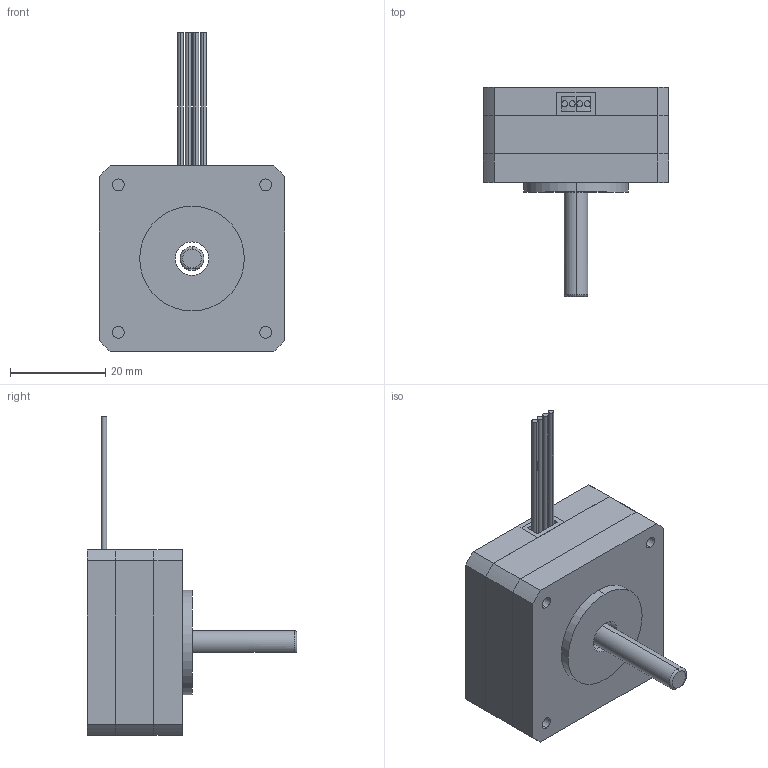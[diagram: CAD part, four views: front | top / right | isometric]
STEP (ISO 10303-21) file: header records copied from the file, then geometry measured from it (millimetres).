
FILE_DESCRIPTION (( 'STEP AP214' ), '1' );
FILE_NAME ('39BYGH220-A.STEP', '2020-05-22T07:00:17', ( 'Windows' ), ( 'Microsoft' ), 'SwSTEP 2.0', 'SolidWorks 2015', '' );
FILE_SCHEMA (( 'AUTOMOTIVE_DESIGN' ));
Length unit declared in the file: millimetre
Products named in the file (7): 粣; 盄旰; M3蹟隊; 39D16-B綴傷裔; 39D16-Aヶ傷裔; 隅赽; 39BYGH220-A
Assembly tree (9 placements, depth 2):
  39BYGH220-A
    隅赽
    39D16-Aヶ傷裔
    39D16-B綴傷裔
    M3蹟隊  x4
    盄旰
    粣
Bounding box: 39 x 44 x 67 mm (x, y, z)
Volume: 20174.9 mm3; surface area: 16586.7 mm2
Topology: 13 solids, 13 shells, 235 faces, 554 edges, 360 vertices
Faces by surface type: plane 115, cylinder 100, torus 20
Entity records: 5451 total; most frequent: DIRECTION 892, CARTESIAN_POINT 834, ORIENTED_EDGE 766, EDGE_CURVE 383, AXIS2_PLACEMENT_3D 336, VERTEX_POINT 252, VECTOR 220, LINE 220
